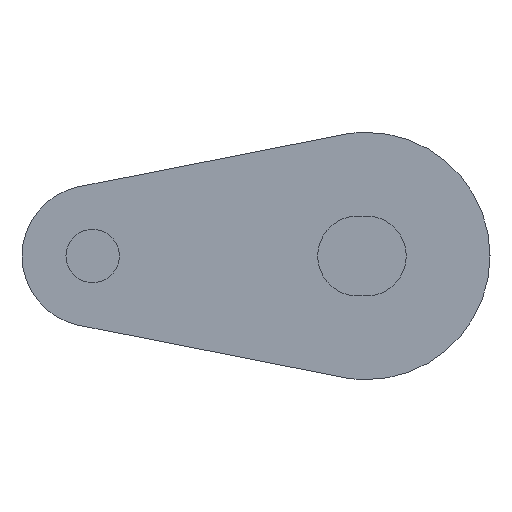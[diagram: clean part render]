
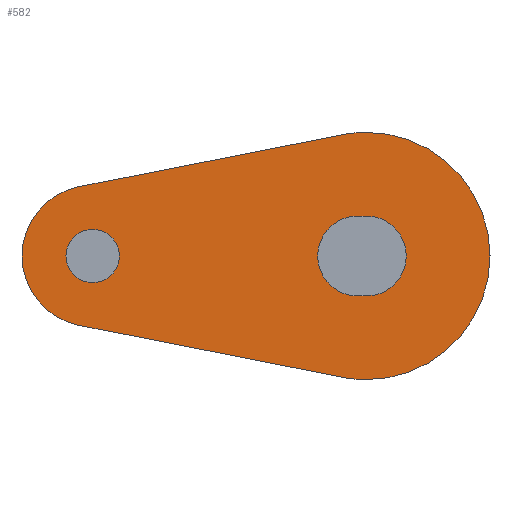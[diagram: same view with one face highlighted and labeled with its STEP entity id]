
A CAD part, left-side view. The second image highlights one B-rep face of the part: STEP entity #582.
In plain terms, the highlighted planar face has unit normal (-1, 0, 0).
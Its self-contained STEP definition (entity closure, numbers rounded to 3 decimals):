
#13 = EDGE_CURVE ( 'NONE', #932, #934, #311, .T. ) ;
#15 = EDGE_CURVE ( 'NONE', #934, #955, #313, .T. ) ;
#22 = EDGE_CURVE ( 'NONE', #930, #933, #320, .T. ) ;
#29 = EDGE_CURVE ( 'NONE', #999, #1016, #319, .T. ) ;
#36 = AXIS2_PLACEMENT_3D ( 'NONE', #626, #621, #619 ) ;
#55 = EDGE_CURVE ( 'NONE', #933, #930, #346, .T. ) ;
#72 = AXIS2_PLACEMENT_3D ( 'NONE', #765, #754, #753 ) ;
#75 = AXIS2_PLACEMENT_3D ( 'NONE', #1000, #993, #929 ) ;
#76 = AXIS2_PLACEMENT_3D ( 'NONE', #767, #744, #741 ) ;
#79 = EDGE_CURVE ( 'NONE', #1023, #941, #357, .T. ) ;
#81 = AXIS2_PLACEMENT_3D ( 'NONE', #954, #952, #953 ) ;
#83 = EDGE_CURVE ( 'NONE', #939, #1023, #355, .T. ) ;
#88 = AXIS2_PLACEMENT_3D ( 'NONE', #770, #758, #757 ) ;
#97 = EDGE_CURVE ( 'NONE', #942, #939, #371, .T. ) ;
#118 = EDGE_CURVE ( 'NONE', #1016, #932, #410, .T. ) ;
#120 = EDGE_CURVE ( 'NONE', #957, #999, #412, .T. ) ;
#124 = EDGE_CURVE ( 'NONE', #941, #942, #409, .T. ) ;
#125 = EDGE_CURVE ( 'NONE', #955, #957, #411, .T. ) ;
#128 = AXIS2_PLACEMENT_3D ( 'NONE', #1010, #1009, #1008 ) ;
#131 = AXIS2_PLACEMENT_3D ( 'NONE', #1050, #1055, #1056 ) ;
#151 = AXIS2_PLACEMENT_3D ( 'NONE', #1068, #1035, #1036 ) ;
#193 = ORIENTED_EDGE ( 'NONE', *, *, #13, .F. ) ;
#195 = ORIENTED_EDGE ( 'NONE', *, *, #15, .F. ) ;
#196 = ORIENTED_EDGE ( 'NONE', *, *, #125, .F. ) ;
#285 = EDGE_LOOP ( 'NONE', ( #464, #461, #459, #463 ) ) ;
#299 = EDGE_LOOP ( 'NONE', ( #467, #440 ) ) ;
#300 = EDGE_LOOP ( 'NONE', ( #471, #196, #195, #193, #428, #429 ) ) ;
#311 = CIRCLE ( 'NONE', #128, 7. ) ;
#313 = CIRCLE ( 'NONE', #81, 7. ) ;
#319 = LINE ( 'NONE', #1018, #324 ) ;
#320 = CIRCLE ( 'NONE', #75, 1.51 ) ;
#324 = VECTOR ( 'NONE', #945, 1000. ) ;
#346 = CIRCLE ( 'NONE', #131, 1.51 ) ;
#350 = VECTOR ( 'NONE', #1038, 1000. ) ;
#355 = LINE ( 'NONE', #1065, #350 ) ;
#357 = CIRCLE ( 'NONE', #151, 2.26 ) ;
#371 = CIRCLE ( 'NONE', #76, 2.26 ) ;
#391 = VECTOR ( 'NONE', #751, 1000. ) ;
#399 = VECTOR ( 'NONE', #748, 1000. ) ;
#409 = LINE ( 'NONE', #760, #391 ) ;
#410 = CIRCLE ( 'NONE', #88, 7. ) ;
#411 = LINE ( 'NONE', #749, #399 ) ;
#412 = CIRCLE ( 'NONE', #72, 4. ) ;
#428 = ORIENTED_EDGE ( 'NONE', *, *, #118, .F. ) ;
#429 = ORIENTED_EDGE ( 'NONE', *, *, #29, .F. ) ;
#440 = ORIENTED_EDGE ( 'NONE', *, *, #22, .T. ) ;
#459 = ORIENTED_EDGE ( 'NONE', *, *, #97, .T. ) ;
#461 = ORIENTED_EDGE ( 'NONE', *, *, #124, .T. ) ;
#463 = ORIENTED_EDGE ( 'NONE', *, *, #83, .T. ) ;
#464 = ORIENTED_EDGE ( 'NONE', *, *, #79, .T. ) ;
#467 = ORIENTED_EDGE ( 'NONE', *, *, #55, .T. ) ;
#471 = ORIENTED_EDGE ( 'NONE', *, *, #120, .F. ) ;
#514 = FACE_OUTER_BOUND ( 'NONE', #300, .T. ) ;
#517 = FACE_BOUND ( 'NONE', #299, .T. ) ;
#526 = FACE_BOUND ( 'NONE', #285, .T. ) ;
#582 = ADVANCED_FACE ( 'NONE', ( #526, #517, #514 ), #629, .T. ) ;
#619 = DIRECTION ( 'NONE',  ( 0., 0., -1. ) ) ;
#621 = DIRECTION ( 'NONE',  ( -1., 0., 0. ) ) ;
#626 = CARTESIAN_POINT ( 'NONE',  ( -129.5, 15.5, 0. ) ) ;
#629 = PLANE ( 'NONE',  #36 ) ;
#741 = DIRECTION ( 'NONE',  ( 0., 0., -1. ) ) ;
#744 = DIRECTION ( 'NONE',  ( 1., 0., 0. ) ) ;
#748 = DIRECTION ( 'NONE',  ( 0., 0.981, 0.194 ) ) ;
#749 = CARTESIAN_POINT ( 'NONE',  ( -129.5, 1.355, -6.868 ) ) ;
#751 = DIRECTION ( 'NONE',  ( 0., -1., 0. ) ) ;
#753 = DIRECTION ( 'NONE',  ( 0., 0., -1. ) ) ;
#754 = DIRECTION ( 'NONE',  ( 1., 0., 0. ) ) ;
#757 = DIRECTION ( 'NONE',  ( 0., 0., -1. ) ) ;
#758 = DIRECTION ( 'NONE',  ( 1., 0., 0. ) ) ;
#760 = CARTESIAN_POINT ( 'NONE',  ( -129.5, 0.5, 2.26 ) ) ;
#765 = CARTESIAN_POINT ( 'NONE',  ( -129.5, 15.5, 0. ) ) ;
#767 = CARTESIAN_POINT ( 'NONE',  ( -129.5, 0., 0. ) ) ;
#770 = CARTESIAN_POINT ( 'NONE',  ( -129.5, 0., 0. ) ) ;
#801 = CARTESIAN_POINT ( 'NONE',  ( -129.5, 1.355, -6.868 ) ) ;
#803 = CARTESIAN_POINT ( 'NONE',  ( -129.5, 16.274, -3.924 ) ) ;
#810 = CARTESIAN_POINT ( 'NONE',  ( -129.5, 0., 7. ) ) ;
#828 = CARTESIAN_POINT ( 'NONE',  ( -129.5, 15.5, -1.51 ) ) ;
#830 = CARTESIAN_POINT ( 'NONE',  ( -129.5, 0., -7. ) ) ;
#833 = CARTESIAN_POINT ( 'NONE',  ( -129.5, 0., -2.26 ) ) ;
#835 = CARTESIAN_POINT ( 'NONE',  ( -129.5, 0.5, 2.26 ) ) ;
#836 = CARTESIAN_POINT ( 'NONE',  ( -129.5, 0., 2.26 ) ) ;
#856 = CARTESIAN_POINT ( 'NONE',  ( -129.5, 15.5, 1.51 ) ) ;
#896 = CARTESIAN_POINT ( 'NONE',  ( -129.5, 0.5, -2.26 ) ) ;
#909 = CARTESIAN_POINT ( 'NONE',  ( -129.5, 16.274, 3.924 ) ) ;
#912 = CARTESIAN_POINT ( 'NONE',  ( -129.5, 1.355, 6.868 ) ) ;
#929 = DIRECTION ( 'NONE',  ( 0., 0., -1. ) ) ;
#930 = VERTEX_POINT ( 'NONE', #856 ) ;
#932 = VERTEX_POINT ( 'NONE', #810 ) ;
#933 = VERTEX_POINT ( 'NONE', #828 ) ;
#934 = VERTEX_POINT ( 'NONE', #830 ) ;
#939 = VERTEX_POINT ( 'NONE', #833 ) ;
#941 = VERTEX_POINT ( 'NONE', #835 ) ;
#942 = VERTEX_POINT ( 'NONE', #836 ) ;
#945 = DIRECTION ( 'NONE',  ( 0., -0.981, 0.194 ) ) ;
#952 = DIRECTION ( 'NONE',  ( 1., 0., 0. ) ) ;
#953 = DIRECTION ( 'NONE',  ( 0., 0., -1. ) ) ;
#954 = CARTESIAN_POINT ( 'NONE',  ( -129.5, 0., 0. ) ) ;
#955 = VERTEX_POINT ( 'NONE', #801 ) ;
#957 = VERTEX_POINT ( 'NONE', #803 ) ;
#993 = DIRECTION ( 'NONE',  ( 1., 0., 0. ) ) ;
#999 = VERTEX_POINT ( 'NONE', #909 ) ;
#1000 = CARTESIAN_POINT ( 'NONE',  ( -129.5, 15.5, 0. ) ) ;
#1008 = DIRECTION ( 'NONE',  ( 0., 0., -1. ) ) ;
#1009 = DIRECTION ( 'NONE',  ( 1., 0., 0. ) ) ;
#1010 = CARTESIAN_POINT ( 'NONE',  ( -129.5, 0., 0. ) ) ;
#1016 = VERTEX_POINT ( 'NONE', #912 ) ;
#1018 = CARTESIAN_POINT ( 'NONE',  ( -129.5, 16.274, 3.924 ) ) ;
#1023 = VERTEX_POINT ( 'NONE', #896 ) ;
#1035 = DIRECTION ( 'NONE',  ( 1., 0., 0. ) ) ;
#1036 = DIRECTION ( 'NONE',  ( 0., 0., -1. ) ) ;
#1038 = DIRECTION ( 'NONE',  ( 0., 1., 0. ) ) ;
#1050 = CARTESIAN_POINT ( 'NONE',  ( -129.5, 15.5, 0. ) ) ;
#1055 = DIRECTION ( 'NONE',  ( 1., 0., 0. ) ) ;
#1056 = DIRECTION ( 'NONE',  ( 0., 0., -1. ) ) ;
#1065 = CARTESIAN_POINT ( 'NONE',  ( -129.5, 0.5, -2.26 ) ) ;
#1068 = CARTESIAN_POINT ( 'NONE',  ( -129.5, 0.5, 0. ) ) ;
